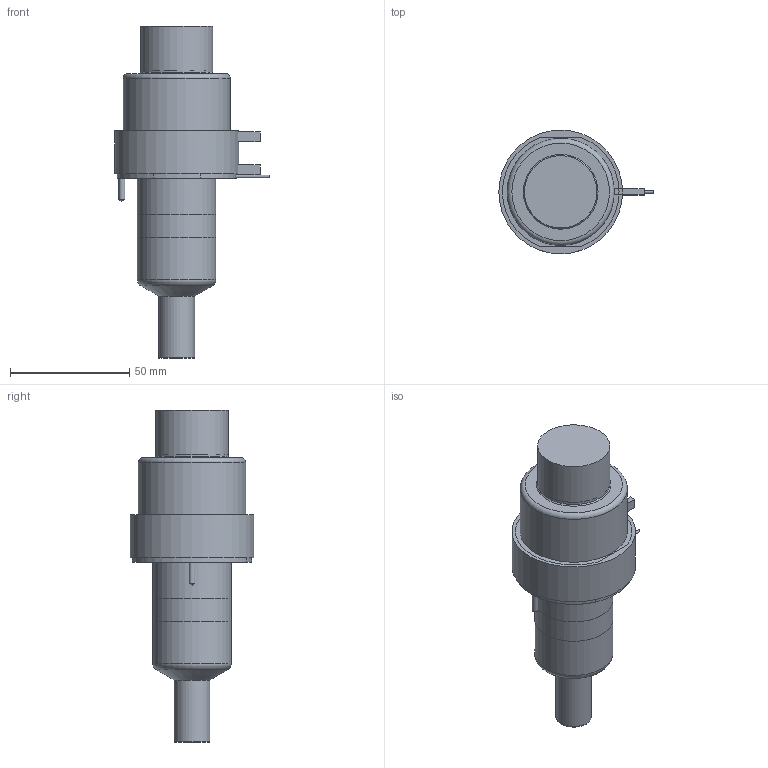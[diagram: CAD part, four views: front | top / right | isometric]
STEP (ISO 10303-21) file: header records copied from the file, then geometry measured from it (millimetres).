
FILE_DESCRIPTION(/* description */ (''),/* implementation_level */ '2;1');
FILE_NAME(/* name */ 'SXYCN19055P7F_250C_a',/* time_stamp */ '2016-03-04T10:33:37+13:00',/* author */ (''),/* organization */ (''),/* preprocessor_version */ 'ST-DEVELOPER v9',/* originating_system */ 'UGS - NX 4.0',/* authorisation */ '');
FILE_SCHEMA (('CONFIG_CONTROL_DESIGN'));
Length unit declared in the file: millimetre
Products named in the file (1): mattD74Dhdtf
Bounding box: 64.85 x 52 x 139.47 mm (x, y, z)
Volume: 244633.6 mm3; surface area: 38723.7 mm2
Topology: 7 solids, 7 shells, 91 faces, 175 edges, 112 vertices
Faces by surface type: plane 45, cylinder 29, torus 8, cone 7, bspline 1, sphere 1
Full cylindrical faces by diameter (mm): 1 x3, 2.2 x1, 2.5 x2, 7 x1, 8 x1, 14.61 x1, 14.995 x2, 18.3 x1, 28.6 x1, 30 x1, 30.4 x1, 33 x2, 38.1 x1, 45 x1, 50 x1, 52 x1
Entity records: 2230 total; most frequent: CARTESIAN_POINT 435, DIRECTION 378, ORIENTED_EDGE 266, AXIS2_PLACEMENT_3D 164, EDGE_LOOP 140, EDGE_CURVE 133, VERTEX_POINT 106, ADVANCED_FACE 91
